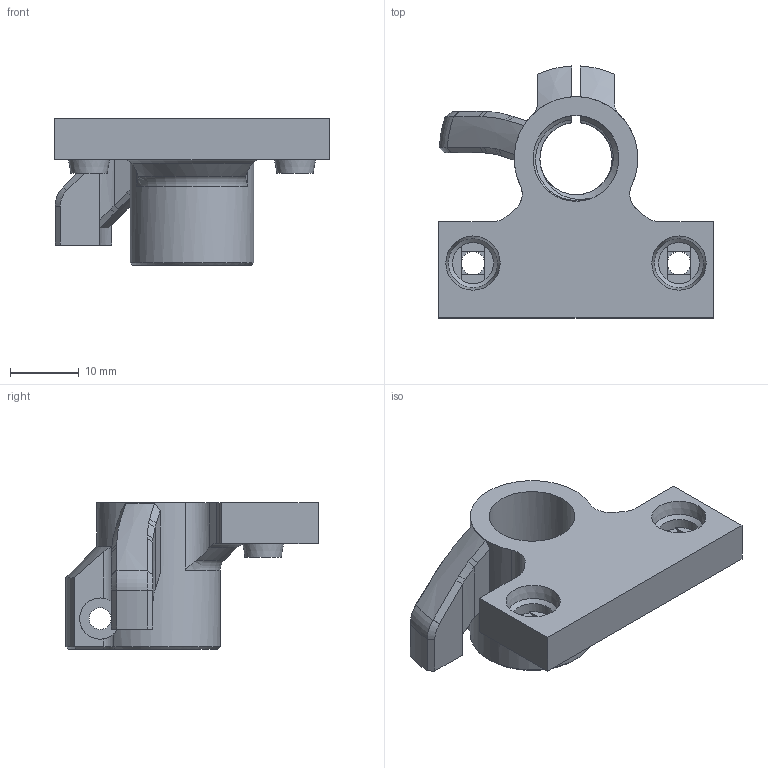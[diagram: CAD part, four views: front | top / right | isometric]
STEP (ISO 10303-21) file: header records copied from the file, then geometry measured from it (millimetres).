
FILE_DESCRIPTION(/* description */ (''),/* implementation_level */ '2;1');
FILE_NAME(/* name */ 'HMG7-E3D-Revo-Micro-Mount.step',/* time_stamp */ '2022-11-01T22:13:20-07:00',/* author */ (''),/* organization */ (''),/* preprocessor_version */ 'ST-DEVELOPER v19.2',/* originating_system */ 'Autodesk Translation Framework v11.17.0.187',/* authorisation */ '');
FILE_SCHEMA (('AUTOMOTIVE_DESIGN { 1 0 10303 214 3 1 1 }'));
Length unit declared in the file: millimetre
Products named in the file (3): GEN_7_1.5; Revo_Micro; Revo_Micro_Mount
Assembly tree (2 placements, depth 3):
  GEN_7_1.5
    Revo_Micro
      Revo_Micro_Mount
Bounding box: 40 x 36.72 x 21.4 mm (x, y, z)
Volume: 7453.9 mm3; surface area: 5450.2 mm2
Topology: 4 solids, 4 shells, 154 faces, 411 edges, 264 vertices
Faces by surface type: plane 60, cylinder 39, bspline 34, cone 18, torus 3
Full cylindrical faces by diameter (mm): 3.2 x2, 3.4 x4, 6 x3, 12.5 x1, 18 x1
Entity records: 6608 total; most frequent: CARTESIAN_POINT 2949, ORIENTED_EDGE 822, DIRECTION 629, EDGE_CURVE 411, VERTEX_POINT 264, AXIS2_PLACEMENT_3D 219, LINE 191, VECTOR 191
